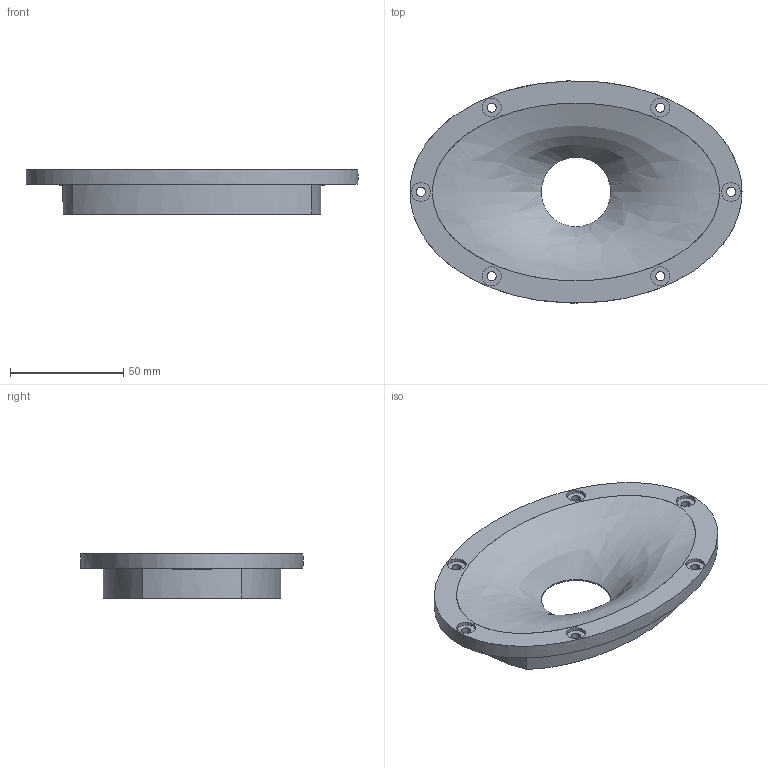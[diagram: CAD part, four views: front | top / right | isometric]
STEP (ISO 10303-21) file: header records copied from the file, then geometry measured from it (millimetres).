
FILE_DESCRIPTION(/* description */ (''),/* implementation_level */ '2;1');
FILE_NAME(/* name */ 'C:/Users/Admin/Desktop/templates/T25B/5/5 vB.step',/* time_stamp */ '2022-06-07T19:13:42-06:00',/* author */ (''),/* organization */ (''),/* preprocessor_version */ 'ST-DEVELOPER v19',/* originating_system */ 'Autodesk Translation Framework v11.7.0.108',/* authorisation */ '');
FILE_SCHEMA (('AUTOMOTIVE_DESIGN { 1 0 10303 214 3 1 1 }'));
Length unit declared in the file: inch
Products named in the file (1): 5x.75 B T25
Bounding box: 146.81 x 98.25 x 19.56 mm (x, y, z)
Volume: 122089.2 mm3; surface area: 30028.6 mm2
Topology: 1 solids, 1 shells, 255 faces, 607 edges, 376 vertices
Faces by surface type: bspline 150, plane 87, cylinder 18
Full cylindrical faces by diameter (mm): 3.302 x2, 4.064 x6, 8.382 x6, 68.072 x1, 69.596 x1
Entity records: 11049 total; most frequent: CARTESIAN_POINT 6092, ORIENTED_EDGE 1214, EDGE_CURVE 607, DIRECTION 583, VERTEX_POINT 376, LINE 299, VECTOR 299, EDGE_LOOP 291
